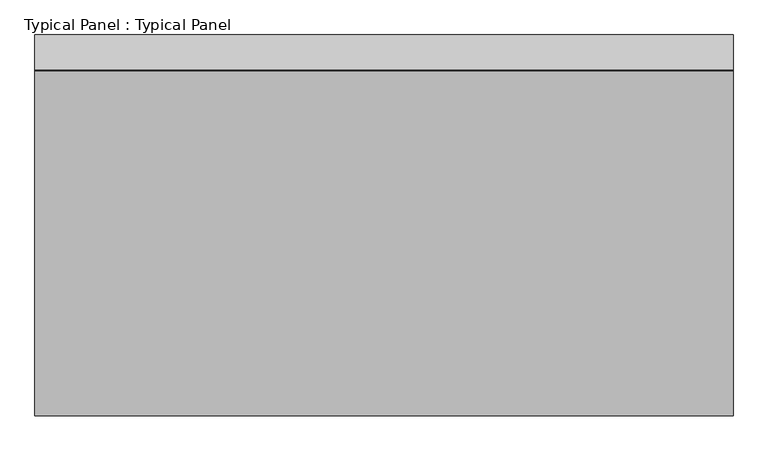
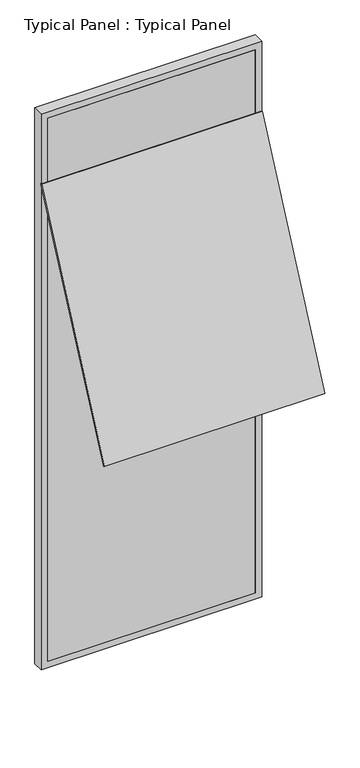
"""IFC4 building model written with IfcOpenShell, lengths in millimetres: plate geometry, Typical Panel : Typical Panel."""

import ifcopenshell
import ifcopenshell.guid

model = None  # the IFC model being written
_history = None  # IfcOwnerHistory: only IFC2X3 demands one
_inside = {}  # id of a spatial element -> (the spatial element, [elements in it])
_under = {}  # id of a project, library or spatial element -> (it, [spatial elements below it])
_declared = {}  # id of a project -> (the project, [libraries it declares])
_typed = {}  # id of a type object -> (the type object, [elements of that type])
_made_of = {}  # id of a material, layer set ... -> (it, [elements and type objects made of it])


def new_model(schema):
    """Start an empty IFC model of exactly this schema.

    Asked for "IFC4X3", IfcOpenShell would pick the latest addendum, in which some entities
    have other attributes; the version numbers below select the first issue.
    IFC2X3 requires an IfcOwnerHistory on every rooted entity: one is made here for all.
    """
    global model, _history
    if schema == "IFC4X3":
        model = ifcopenshell.file(schema_version=(4, 3, 0, 0))
    else:
        model = ifcopenshell.file(schema=schema)
    _inside.clear()
    _under.clear()
    _declared.clear()
    _typed.clear()
    _made_of.clear()
    _history = None
    if model.schema == "IFC2X3":
        org = make("IfcOrganization", Name="unknown")
        user = make(
            "IfcPersonAndOrganization",
            ThePerson=make("IfcPerson", FamilyName="unknown"),
            TheOrganization=org,
        )
        app = make(
            "IfcApplication",
            ApplicationDeveloper=org,
            Version="unknown",
            ApplicationFullName="unknown",
            ApplicationIdentifier="unknown",
        )
        _history = make(
            "IfcOwnerHistory",
            OwningUser=user,
            OwningApplication=app,
            ChangeAction="ADDED",
            CreationDate=0,
        )
    return model


def make(cls, **values):
    """One entity of the class cls with the attributes given. An attribute that is None is left unset."""
    return model.create_entity(
        cls, **{name: value for name, value in values.items() if value is not None}
    )


def rooted(cls, **values):
    """An entity with a GlobalId (a new one), such as an element, a storey or a relation."""
    return make(cls, GlobalId=ifcopenshell.guid.new(), OwnerHistory=_history, **values)


def si_unit(unit_type, name, prefix=None):
    """IfcSIUnit, for example si_unit("LENGTHUNIT", "METRE", prefix="MILLI")."""
    return make("IfcSIUnit", UnitType=unit_type, Prefix=prefix, Name=name)


def assignment(units):
    """IfcUnitAssignment: the units of a project."""
    return None if units is None else make("IfcUnitAssignment", Units=units)


def point(xyz):
    """IfcCartesianPoint."""
    return None if xyz is None else make("IfcCartesianPoint", Coordinates=xyz)


def direction(xyz):
    """IfcDirection."""
    return None if xyz is None else make("IfcDirection", DirectionRatios=xyz)


def frame(location, z_axis=None, x_axis=None):
    """IfcAxis2Placement3D, a coordinate frame: its origin and axes. An axis left out is left unset."""
    return make(
        "IfcAxis2Placement3D",
        Location=point(location),
        Axis=direction(z_axis),
        RefDirection=direction(x_axis),
    )


def origin():
    """The frame at (0, 0, 0) with its axes left unset."""
    return frame((0.0, 0.0, 0.0))


def place(relative_to, where):
    """IfcLocalPlacement: puts the frame where relative to a parent placement (None: the world)."""
    return make(
        "IfcLocalPlacement", PlacementRelTo=relative_to, RelativePlacement=where
    )


def context(
    kind, dimensions, precision=None, world=None, true_north=None, identifier=None
):
    """IfcGeometricRepresentationContext, for example the 3D "Model" context."""
    return make(
        "IfcGeometricRepresentationContext",
        ContextIdentifier=identifier,
        ContextType=kind,
        CoordinateSpaceDimension=dimensions,
        Precision=precision,
        WorldCoordinateSystem=world,
        TrueNorth=true_north,
    )


def project(units=None, contexts=None):
    """IfcProject with its units and contexts."""
    return rooted(
        "IfcProject",
        Name="project",
        RepresentationContexts=contexts,
        UnitsInContext=assignment(units),
    )


def spatial(cls, under=None, at=None, **own):
    """A site, building, storey or space (cls), placed at a placement, below another one or the project."""
    s = rooted(cls, ObjectPlacement=at, **own)
    if under is not None:
        _under.setdefault(under.id(), (under, []))[1].append(s)
    return s


def polyline(points):
    """IfcPolyline through the points."""
    return make("IfcPolyline", Points=[point(p) for p in points])


def outline(outer, holes=None, kind="AREA"):
    """IfcArbitraryClosedProfileDef: a profile drawn as a closed curve; with holes, ...WithVoids."""
    if holes is None:
        return make("IfcArbitraryClosedProfileDef", ProfileType=kind, OuterCurve=outer)
    return make(
        "IfcArbitraryProfileDefWithVoids",
        ProfileType=kind,
        OuterCurve=outer,
        InnerCurves=holes,
    )


def extrude(swept, where, along, depth):
    """IfcExtrudedAreaSolid: the profile swept, set in the frame where, extruded along a direction by depth."""
    return make(
        "IfcExtrudedAreaSolid",
        SweptArea=swept,
        Position=where,
        ExtrudedDirection=direction(along),
        Depth=depth,
    )


def shape(context_of_items, identifier, shape_type, items):
    """IfcShapeRepresentation: the items that make up one representation, for example the "Body"."""
    return make(
        "IfcShapeRepresentation",
        ContextOfItems=context_of_items,
        RepresentationIdentifier=identifier,
        RepresentationType=shape_type,
        Items=items,
    )


def source(mapping_origin, context_of_items, identifier, shape_type, items):
    """IfcRepresentationMap: a shape defined once, which mapped items show again and again."""
    return make(
        "IfcRepresentationMap",
        MappingOrigin=mapping_origin,
        MappedRepresentation=shape(context_of_items, identifier, shape_type, items),
    )


def transform(
    local_origin,
    x_axis=None,
    y_axis=None,
    z_axis=None,
    scale=None,
    scale2=None,
    scale3=None,
    uniform=True,
):
    """IfcCartesianTransformationOperator3D, or its non-uniform kind. x_axis, y_axis, z_axis: its Axis1, 2, 3."""
    if uniform:
        return make(
            "IfcCartesianTransformationOperator3D",
            Axis1=direction(x_axis),
            Axis2=direction(y_axis),
            LocalOrigin=point(local_origin),
            Scale=scale,
            Axis3=direction(z_axis),
        )
    return make(
        "IfcCartesianTransformationOperator3DnonUniform",
        Axis1=direction(x_axis),
        Axis2=direction(y_axis),
        LocalOrigin=point(local_origin),
        Scale=scale,
        Axis3=direction(z_axis),
        Scale2=scale2,
        Scale3=scale3,
    )


def mapped(mapping_source, mapping_target):
    """IfcMappedItem: shows the shape of a source again, moved by a transform."""
    return make(
        "IfcMappedItem", MappingSource=mapping_source, MappingTarget=mapping_target
    )


def made_of(thing, what):
    """Note that an element or type object is made of a material, layer set ...; save() writes the relation."""
    if what is not None:
        _made_of.setdefault(what.id(), (what, []))[1].append(thing)
    return thing


def element(
    cls,
    number,
    at=None,
    inside=None,
    cuts=None,
    type_object=None,
    material=None,
    context=None,
    identifier="Body",
    shape_type=None,
    held_by="IfcProductDefinitionShape",
    body=None,
    shapes=None,
    **own,
):
    """One element of the class cls, such as IfcWall. Its Tag is "e" and its number.

    at: its placement. inside: the storey or other place that contains it. cuts: it is an
    opening in that element (IfcRelVoidsElement). A single representation is given by context,
    identifier, shape_type and body (its items); several are given by shapes. held_by: the class
    of the entity that holds the representations. save() writes the other relations.
    """
    e = rooted(cls, Tag="e%d" % number, ObjectPlacement=at, **own)
    if body is not None:
        shapes = [shape(context, identifier, shape_type, body)]
    if shapes is not None:
        e.Representation = make(held_by, Representations=shapes)
    if inside is not None:
        _inside.setdefault(inside.id(), (inside, []))[1].append(e)
    if cuts is not None:
        rooted(
            "IfcRelVoidsElement", RelatingBuildingElement=cuts, RelatedOpeningElement=e
        )
    if type_object is not None:
        _typed.setdefault(type_object.id(), (type_object, []))[1].append(e)
    return made_of(e, material)


def aggregate(whole, parts):
    """IfcRelAggregates: a whole, such as a stair, and the parts it consists of."""
    return rooted("IfcRelAggregates", RelatingObject=whole, RelatedObjects=parts)


def save(model, path):
    """Write the relations noted so far, then the file.

    IfcRelAggregates (storeys below a building ...), IfcRelContainedInSpatialStructure (elements
    in a storey), IfcRelDefinesByType, IfcRelAssociatesMaterial and IfcRelDeclares: one each for
    every whole, place, type object, material and project.
    """
    for whole, parts in _under.values():
        aggregate(whole, parts)
    for where, things in _inside.values():
        rooted(
            "IfcRelContainedInSpatialStructure",
            RelatedElements=things,
            RelatingStructure=where,
        )
    for kind, things in _typed.values():
        rooted("IfcRelDefinesByType", RelatedObjects=things, RelatingType=kind)
    for what, things in _made_of.values():
        rooted("IfcRelAssociatesMaterial", RelatedObjects=things, RelatingMaterial=what)
    for by, libraries in _declared.values():
        rooted("IfcRelDeclares", RelatingContext=by, RelatedDefinitions=libraries)
    model.write(path)


def typical_panel_typical_panel_1ac13da4(model_context):
    return source(origin(), model_context, "Body", "SweptSolid", [
        extrude(outline(polyline([(0.0, -9.9999999), (0.0, 0.0), (1500.00002, 0.0), (1500.00002, -9.9999999), (0.0, -9.9999999)])), frame((750.00001, -744.581958, 1913.9613727), z_axis=(0.0, 0.4226182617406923, 0.9063077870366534), x_axis=(-1.0, 0.0, 0.0)), (0.0, 0.0, 1.0), 1750.0),
        extrude(outline(polyline([(0.0, -750.00001), (0.0, 750.00001), (4000.0, 750.00001), (4000.0, -750.00001), (0.0, -750.00001)]), holes=[polyline([(45.0, 705.00001), (45.0, -705.00001), (3955.0, -705.00001), (3955.0, 705.00001), (45.0, 705.00001)])]), frame((0.0, -1.5797986, 0.0), z_axis=(0.0, 1.0, 0.0), x_axis=(0.0, 0.0, 1.0)), (0.0, 0.0, 1.0), 75.0),
        extrude(outline(polyline([(705.00001, -1.5797986), (-705.00001, -1.5797986), (-705.00001, 13.4202014), (705.00001, 13.4202014), (705.00001, -1.5797986)])), frame((0.0, 0.0, 45.0), z_axis=(0.0, 0.0, 1.0), x_axis=(1.0, 0.0, 0.0)), (0.0, 0.0, 1.0), 3910.0),
    ])


if __name__ == "__main__":
    model = new_model("IFC4")
    model_context = context("Model", 3, world=origin())
    ifc_project = project(units=[si_unit("LENGTHUNIT", "METRE", prefix="MILLI")], contexts=[model_context])
    site = spatial("IfcSite", under=ifc_project)
    building = spatial("IfcBuilding", under=site)
    placement = place(None, origin())
    typical_panel_typical_panel_shape = typical_panel_typical_panel_1ac13da4(model_context)
    element("IfcPlate", 1, ObjectType="Typical Panel : Typical Panel", at=placement, inside=building, context=model_context, shape_type="MappedRepresentation", body=[
        mapped(typical_panel_typical_panel_shape, transform((0.0, 0.0, 0.0), x_axis=(1.0, 0.0, 0.0), y_axis=(0.0, 1.0, 0.0), z_axis=(0.0, 0.0, 1.0))),
    ])
    save(model, "model.ifc")
